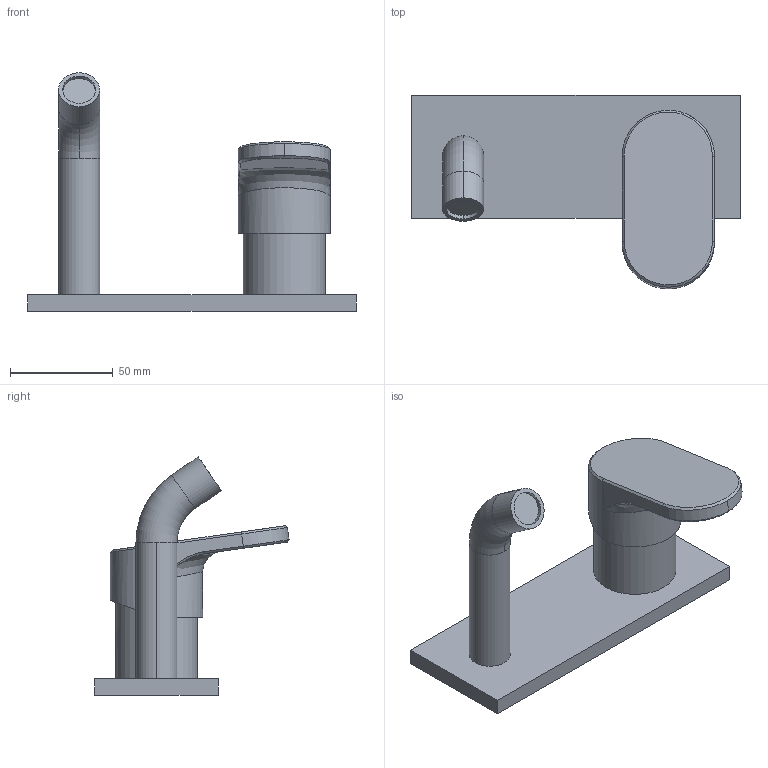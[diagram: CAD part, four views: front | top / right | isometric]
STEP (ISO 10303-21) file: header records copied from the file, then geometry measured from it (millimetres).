
FILE_DESCRIPTION (( 'STEP AP203' ), '1' );
FILE_NAME ('AN P19T.STEP', '2019-02-20T16:59:17', ( '' ), ( '' ), 'SwSTEP 2.0', 'SolidWorks 2019', '' );
FILE_SCHEMA (( 'CONFIG_CONTROL_DESIGN' ));
Length unit declared in the file: millimetre
Products named in the file (1): AN P19T
Bounding box: 160 x 94.63 x 116.24 mm (x, y, z)
Volume: 221110.3 mm3; surface area: 43381 mm2
Topology: 1 solids, 1 shells, 45 faces, 101 edges, 61 vertices
Faces by surface type: plane 18, cylinder 12, bspline 10, cone 3, torus 2
Entity records: 2953 total; most frequent: CARTESIAN_POINT 1957, ORIENTED_EDGE 202, DIRECTION 168, EDGE_CURVE 101, AXIS2_PLACEMENT_3D 63, VERTEX_POINT 61, EDGE_LOOP 48, FACE_OUTER_BOUND 45
